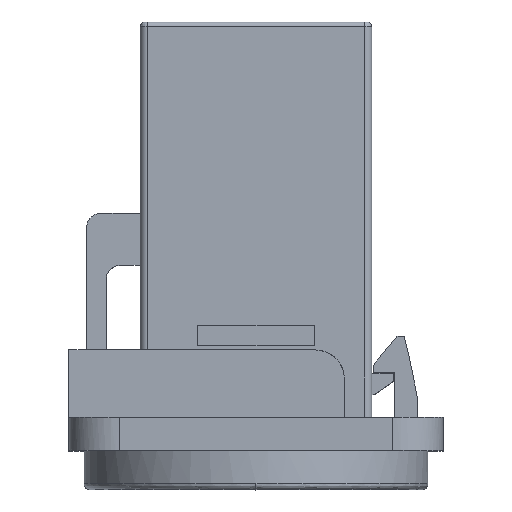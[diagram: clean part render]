
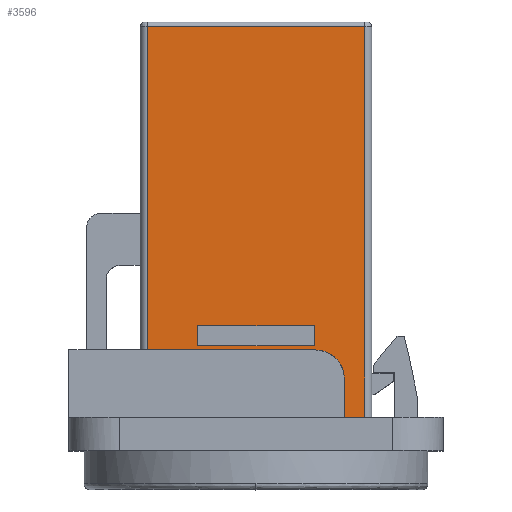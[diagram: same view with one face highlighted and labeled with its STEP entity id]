
A CAD part, top view. The second image highlights one B-rep face of the part: STEP entity #3596.
In plain terms, the highlighted planar face has unit normal (0, 0, 1) as drawn and (1, 0, 0) by its records, which use the part's own axes.
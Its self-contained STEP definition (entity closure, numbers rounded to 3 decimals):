
#3207 = VERTEX_POINT('',#3208);
#3208 = CARTESIAN_POINT('',(7.25,7.55,32.2));
#3215 = EDGE_CURVE('',#3216,#3207,#3218,.T.);
#3216 = VERTEX_POINT('',#3217);
#3217 = CARTESIAN_POINT('',(7.25,7.55,0.3));
#3218 = LINE('',#3219,#3220);
#3219 = CARTESIAN_POINT('',(7.25,7.55,0.));
#3220 = VECTOR('',#3221,1.);
#3221 = DIRECTION('',(0.,0.,1.));
#3596 = ADVANCED_FACE('',(#3597,#3622),#3656,.F.);
#3597 = FACE_BOUND('',#3598,.F.);
#3598 = EDGE_LOOP('',(#3599,#3609,#3615,#3616));
#3599 = ORIENTED_EDGE('',*,*,#3600,.T.);
#3600 = EDGE_CURVE('',#3601,#3603,#3605,.T.);
#3601 = VERTEX_POINT('',#3602);
#3602 = CARTESIAN_POINT('',(7.25,-7.55,0.3));
#3603 = VERTEX_POINT('',#3604);
#3604 = CARTESIAN_POINT('',(7.25,-7.55,32.2));
#3605 = LINE('',#3606,#3607);
#3606 = CARTESIAN_POINT('',(7.25,-7.55,0.));
#3607 = VECTOR('',#3608,1.);
#3608 = DIRECTION('',(0.,0.,1.));
#3609 = ORIENTED_EDGE('',*,*,#3610,.T.);
#3610 = EDGE_CURVE('',#3603,#3207,#3611,.T.);
#3611 = LINE('',#3612,#3613);
#3612 = CARTESIAN_POINT('',(7.25,-7.55,32.2));
#3613 = VECTOR('',#3614,1.);
#3614 = DIRECTION('',(0.,1.,0.));
#3615 = ORIENTED_EDGE('',*,*,#3215,.F.);
#3616 = ORIENTED_EDGE('',*,*,#3617,.F.);
#3617 = EDGE_CURVE('',#3601,#3216,#3618,.T.);
#3618 = LINE('',#3619,#3620);
#3619 = CARTESIAN_POINT('',(7.25,-7.55,0.3));
#3620 = VECTOR('',#3621,1.);
#3621 = DIRECTION('',(0.,1.,0.));
#3622 = FACE_BOUND('',#3623,.F.);
#3623 = EDGE_LOOP('',(#3624,#3634,#3642,#3650));
#3624 = ORIENTED_EDGE('',*,*,#3625,.T.);
#3625 = EDGE_CURVE('',#3626,#3628,#3630,.T.);
#3626 = VERTEX_POINT('',#3627);
#3627 = CARTESIAN_POINT('',(7.25,4.05,22.5));
#3628 = VERTEX_POINT('',#3629);
#3629 = CARTESIAN_POINT('',(7.25,-4.05,22.5));
#3630 = LINE('',#3631,#3632);
#3631 = CARTESIAN_POINT('',(7.25,4.05,22.5));
#3632 = VECTOR('',#3633,1.);
#3633 = DIRECTION('',(0.,-1.,0.));
#3634 = ORIENTED_EDGE('',*,*,#3635,.T.);
#3635 = EDGE_CURVE('',#3628,#3636,#3638,.T.);
#3636 = VERTEX_POINT('',#3637);
#3637 = CARTESIAN_POINT('',(7.25,-4.05,21.1));
#3638 = LINE('',#3639,#3640);
#3639 = CARTESIAN_POINT('',(7.25,-4.05,22.5));
#3640 = VECTOR('',#3641,1.);
#3641 = DIRECTION('',(-0.,-0.,-1.));
#3642 = ORIENTED_EDGE('',*,*,#3643,.F.);
#3643 = EDGE_CURVE('',#3644,#3636,#3646,.T.);
#3644 = VERTEX_POINT('',#3645);
#3645 = CARTESIAN_POINT('',(7.25,4.05,21.1));
#3646 = LINE('',#3647,#3648);
#3647 = CARTESIAN_POINT('',(7.25,4.05,21.1));
#3648 = VECTOR('',#3649,1.);
#3649 = DIRECTION('',(0.,-1.,0.));
#3650 = ORIENTED_EDGE('',*,*,#3651,.F.);
#3651 = EDGE_CURVE('',#3626,#3644,#3652,.T.);
#3652 = LINE('',#3653,#3654);
#3653 = CARTESIAN_POINT('',(7.25,4.05,22.5));
#3654 = VECTOR('',#3655,1.);
#3655 = DIRECTION('',(-0.,-0.,-1.));
#3656 = PLANE('',#3657);
#3657 = AXIS2_PLACEMENT_3D('',#3658,#3659,#3660);
#3658 = CARTESIAN_POINT('',(7.25,-8.05,0.));
#3659 = DIRECTION('',(-1.,0.,0.));
#3660 = DIRECTION('',(0.,1.,0.));
